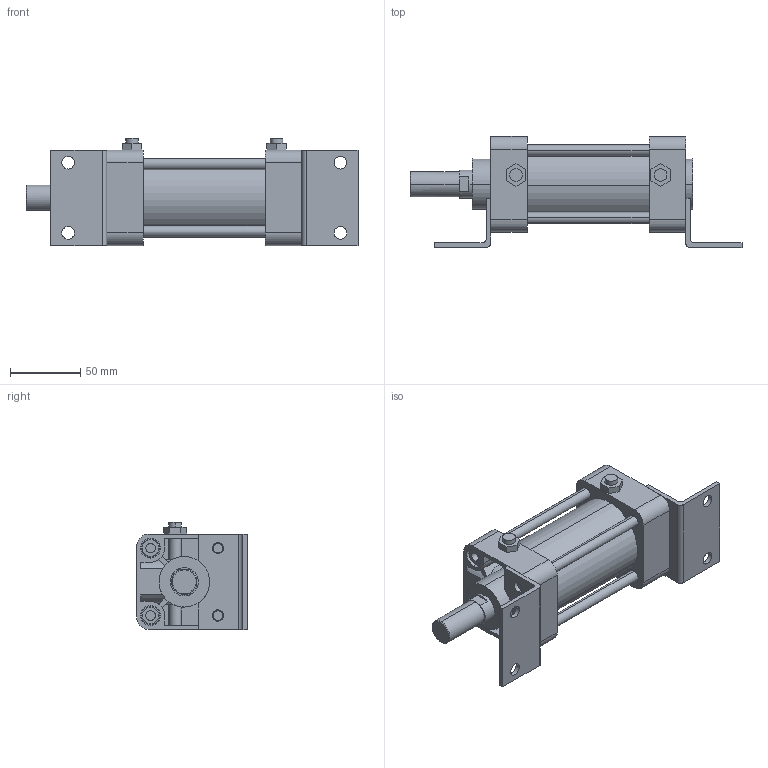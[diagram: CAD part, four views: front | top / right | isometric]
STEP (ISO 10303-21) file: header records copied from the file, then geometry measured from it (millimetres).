
FILE_DESCRIPTION (( 'STEP AP203' ), '1' );
FILE_NAME ('KG2-50-50-L.STEP', '2016-04-01T08:12:40', ( '' ), ( '' ), 'SwSTEP 2.0', 'SolidWorks 2014', '' );
FILE_SCHEMA (( 'CONFIG_CONTROL_DESIGN' ));
Length unit declared in the file: millimetre
Products named in the file (7): KG2-50-50-L; K-50-L; KGLH2-50-50; KG2-50-After
Assembly tree (17 placements, depth 2):
  KG2-50-50-L
    KG2-50-After
    KGLH2-50-50
    (unnamed)
    (unnamed)  x4
    (unnamed)  x8
    K-50-L  x2
Bounding box: 236.5 x 79 x 76.3 mm (x, y, z)
Volume: 465134.3 mm3; surface area: 119344.5 mm2
Topology: 17 solids, 21 shells, 365 faces, 860 edges, 552 vertices
Faces by surface type: plane 159, cylinder 148, torus 32, cone 26
Entity records: 8789 total; most frequent: CARTESIAN_POINT 1599, DIRECTION 1350, ORIENTED_EDGE 1232, EDGE_CURVE 616, AXIS2_PLACEMENT_3D 501, VERTEX_POINT 406, LINE 348, VECTOR 348
